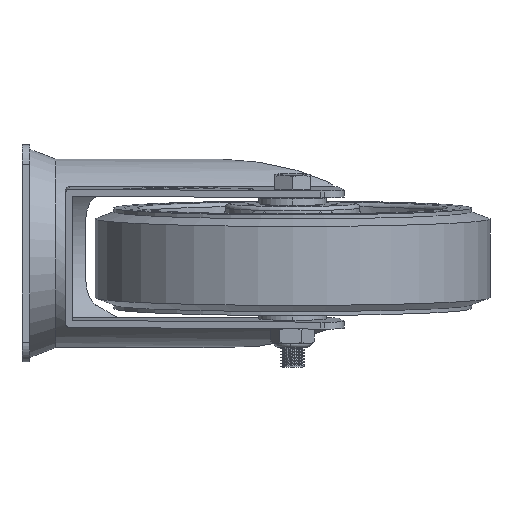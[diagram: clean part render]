
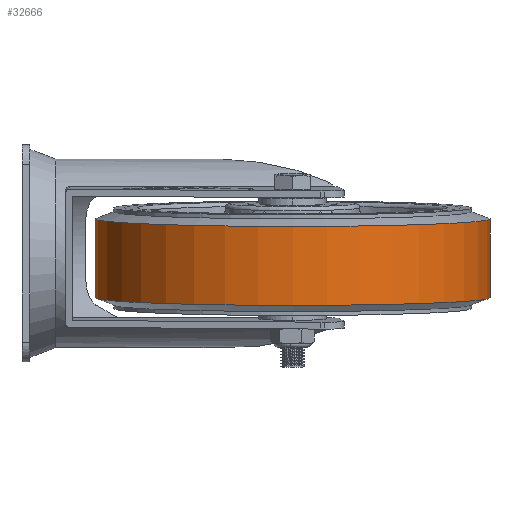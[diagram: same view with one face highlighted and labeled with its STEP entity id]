
A CAD part, left-side view. The second image highlights one B-rep face of the part: STEP entity #32666.
In plain terms, the highlighted cylindrical face has radius 100 mm (diameter 200 mm), a partial arc.
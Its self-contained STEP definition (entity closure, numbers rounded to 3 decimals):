
#64 = CARTESIAN_POINT ( 'NONE',  ( 0., -20., 100. ) ) ;
#766 = CARTESIAN_POINT ( 'NONE',  ( 0., -20., 0. ) ) ;
#794 = VECTOR ( 'NONE', #25551, 1000. ) ;
#2127 = CARTESIAN_POINT ( 'NONE',  ( 0., 20., 100. ) ) ;
#3852 = DIRECTION ( 'NONE',  ( 0., -1., 0. ) ) ;
#4017 = ORIENTED_EDGE ( 'NONE', *, *, #12606, .F. ) ;
#4682 = AXIS2_PLACEMENT_3D ( 'NONE', #34157, #27865, #40433 ) ;
#5773 = VERTEX_POINT ( 'NONE', #2127 ) ;
#6654 = CIRCLE ( 'NONE', #36240, 100. ) ;
#7174 = VERTEX_POINT ( 'NONE', #64 ) ;
#8164 = CARTESIAN_POINT ( 'NONE',  ( 0., 0., 100. ) ) ;
#9255 = EDGE_CURVE ( 'NONE', #5773, #7174, #27550, .T. ) ;
#10238 = DIRECTION ( 'NONE',  ( 0., 0., -1. ) ) ;
#11768 = CARTESIAN_POINT ( 'NONE',  ( 0., -20., -100. ) ) ;
#12606 = EDGE_CURVE ( 'NONE', #7174, #20229, #32976, .T. ) ;
#14311 = VECTOR ( 'NONE', #14883, 1000. ) ;
#14883 = DIRECTION ( 'NONE',  ( 0., -1., 0. ) ) ;
#15749 = VERTEX_POINT ( 'NONE', #36145 ) ;
#16781 = DIRECTION ( 'NONE',  ( 0., -1., 0. ) ) ;
#16900 = CARTESIAN_POINT ( 'NONE',  ( 0., 20., 0. ) ) ;
#20229 = VERTEX_POINT ( 'NONE', #11768 ) ;
#22766 = ORIENTED_EDGE ( 'NONE', *, *, #36106, .T. ) ;
#23665 = DIRECTION ( 'NONE',  ( 0., 0., -1. ) ) ;
#25551 = DIRECTION ( 'NONE',  ( 0., -1., 0. ) ) ;
#25761 = LINE ( 'NONE', #29322, #794 ) ;
#26560 = EDGE_LOOP ( 'NONE', ( #29306, #22766, #41375, #4017 ) ) ;
#27550 = LINE ( 'NONE', #8164, #14311 ) ;
#27654 = CYLINDRICAL_SURFACE ( 'NONE', #4682, 100. ) ;
#27865 = DIRECTION ( 'NONE',  ( 0., -1., 0. ) ) ;
#28118 = EDGE_CURVE ( 'NONE', #15749, #20229, #25761, .T. ) ;
#28958 = AXIS2_PLACEMENT_3D ( 'NONE', #766, #16781, #10238 ) ;
#29306 = ORIENTED_EDGE ( 'NONE', *, *, #9255, .F. ) ;
#29322 = CARTESIAN_POINT ( 'NONE',  ( 0., 0., -100. ) ) ;
#32666 = ADVANCED_FACE ( 'NONE', ( #33541 ), #27654, .T. ) ;
#32976 = CIRCLE ( 'NONE', #28958, 100. ) ;
#33541 = FACE_OUTER_BOUND ( 'NONE', #26560, .T. ) ;
#34157 = CARTESIAN_POINT ( 'NONE',  ( 0., 0., 0. ) ) ;
#36106 = EDGE_CURVE ( 'NONE', #5773, #15749, #6654, .T. ) ;
#36145 = CARTESIAN_POINT ( 'NONE',  ( 0., 20., -100. ) ) ;
#36240 = AXIS2_PLACEMENT_3D ( 'NONE', #16900, #3852, #23665 ) ;
#40433 = DIRECTION ( 'NONE',  ( 0., 0., -1. ) ) ;
#41375 = ORIENTED_EDGE ( 'NONE', *, *, #28118, .T. ) ;
